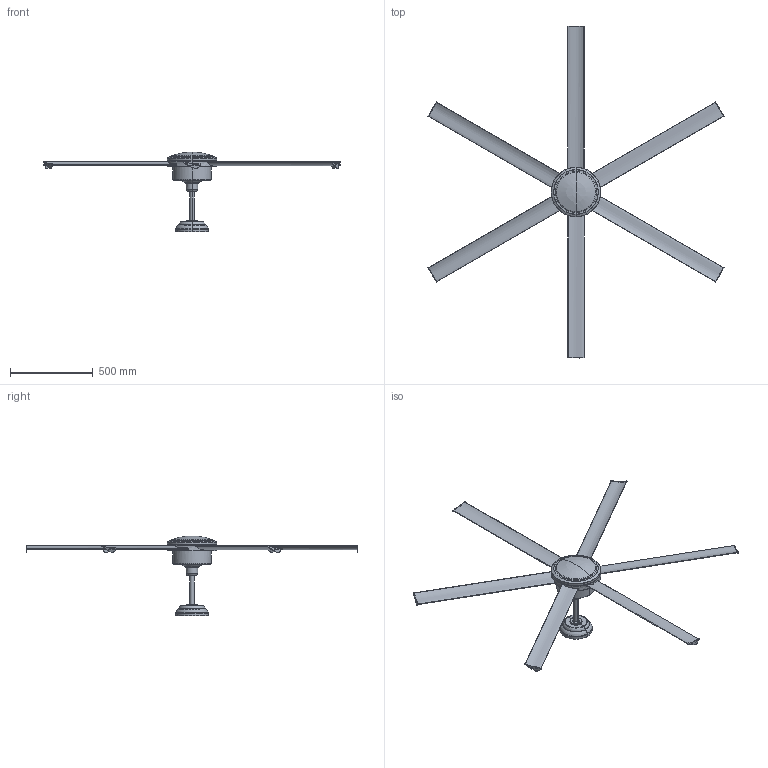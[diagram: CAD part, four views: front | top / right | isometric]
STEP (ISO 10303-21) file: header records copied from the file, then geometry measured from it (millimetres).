
FILE_DESCRIPTION(/* description */ (''),/* implementation_level */ '2;1');
FILE_NAME(/* name */ '34202.step',/* time_stamp */ '2024-09-30T09:57:28+02:00',/* author */ ('RenataManzini'),/* organization */ (''),/* preprocessor_version */ 'ST-DEVELOPER v20',/* originating_system */ 'AutoCAD Mechanical',/* authorisation */ '');
FILE_SCHEMA (('AUTOMOTIVE_DESIGN { 1 0 10303 214 3 1 1 }'));
Length unit declared in the file: millimetre
Products named in the file (1): Product
Bounding box: 1794.52 x 2012.02 x 483.32 mm (x, y, z)
Volume: 11341285.4 mm3; surface area: 2130774.5 mm2
Topology: 18 solids, 18 shells, 338 faces, 820 edges, 514 vertices
Faces by surface type: plane 114, cylinder 110, torus 68, bspline 38, cone 8
Entity records: 17774 total; most frequent: CARTESIAN_POINT 10382, ORIENTED_EDGE 1630, DIRECTION 1309, EDGE_CURVE 815, VERTEX_POINT 509, AXIS2_PLACEMENT_3D 505, EDGE_LOOP 366, FACE_OUTER_BOUND 338
